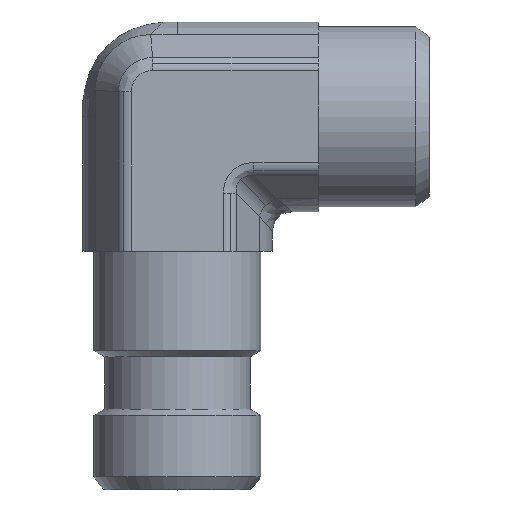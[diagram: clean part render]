
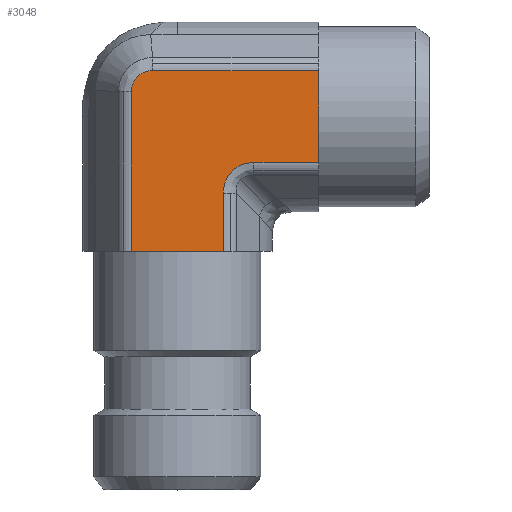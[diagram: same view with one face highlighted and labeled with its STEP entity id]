
A CAD part, top view. The second image highlights one B-rep face of the part: STEP entity #3048.
In plain terms, the highlighted planar face has unit normal (0, 0, 1) as drawn and (0, -1, 0) by its records, which use the part's own axes.
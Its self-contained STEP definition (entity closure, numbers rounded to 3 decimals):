
#319=CARTESIAN_POINT('',(3.092,-9.4,4.561));
#320=VERTEX_POINT('',#319);
#328=CARTESIAN_POINT('',(8.85,-9.4,4.561));
#329=VERTEX_POINT('',#328);
#330=CARTESIAN_POINT('',(3.092,-9.4,4.561));
#331=DIRECTION('',(1.0,0.0,0.0));
#332=VECTOR('',#331,5.758);
#333=LINE('',#330,#332);
#334=EDGE_CURVE('',#320,#329,#333,.T.);
#443=CARTESIAN_POINT('',(-9.061,-9.4,-2.461));
#444=VERTEX_POINT('',#443);
#452=CARTESIAN_POINT('',(-9.061,-9.4,14.0));
#453=VERTEX_POINT('',#452);
#454=CARTESIAN_POINT('',(-9.061,-9.4,-2.461));
#455=DIRECTION('',(0.0,0.0,1.0));
#456=VECTOR('',#455,16.461);
#457=LINE('',#454,#456);
#458=EDGE_CURVE('',#444,#453,#457,.T.);
#1963=CARTESIAN_POINT('',(8.85,-9.4,-4.561));
#1964=VERTEX_POINT('',#1963);
#1965=CARTESIAN_POINT('',(8.85,-9.4,-4.561));
#1966=DIRECTION('',(0.0,0.0,1.0));
#1967=VECTOR('',#1966,9.122);
#1968=LINE('',#1965,#1967);
#1969=EDGE_CURVE('',#1964,#329,#1968,.T.);
#2263=CARTESIAN_POINT('',(0.061,-9.4,14.0));
#2264=VERTEX_POINT('',#2263);
#2265=CARTESIAN_POINT('',(0.061,-9.4,14.0));
#2266=DIRECTION('',(-1.0,0.0,0.0));
#2267=VECTOR('',#2266,9.122);
#2268=LINE('',#2265,#2267);
#2269=EDGE_CURVE('',#2264,#453,#2268,.T.);
#2734=CARTESIAN_POINT('',(-6.961,-9.4,-4.561));
#2735=VERTEX_POINT('',#2734);
#2743=CARTESIAN_POINT('',(-9.061,-9.4,-2.461));
#2744=CARTESIAN_POINT('',(-9.061,-9.4,-2.598));
#2745=CARTESIAN_POINT('',(-9.048,-9.4,-2.736));
#2746=CARTESIAN_POINT('',(-8.977,-9.4,-3.088));
#2747=CARTESIAN_POINT('',(-8.901,-9.4,-3.296));
#2748=CARTESIAN_POINT('',(-8.62,-9.4,-3.796));
#2749=CARTESIAN_POINT('',(-8.37,-9.4,-4.058));
#2750=CARTESIAN_POINT('',(-7.737,-9.4,-4.451));
#2751=CARTESIAN_POINT('',(-7.349,-9.4,-4.561));
#2752=CARTESIAN_POINT('',(-6.961,-9.4,-4.561));
#2753=B_SPLINE_CURVE_WITH_KNOTS('',3,(#2743,#2744,#2745,#2746,#2747,#2748,#2749,#2750,#2751,#2752),.UNSPECIFIED.,.F.,.U.,(4,2,2,2,4),(-3.281,-2.871,-2.215,-1.165,0.0),.UNSPECIFIED.);
#2754=EDGE_CURVE('',#2735,#444,#2753,.F.);
#2781=CARTESIAN_POINT('',(8.85,-9.4,-4.561));
#2782=DIRECTION('',(-1.0,0.0,0.0));
#2783=VECTOR('',#2782,15.811);
#2784=LINE('',#2781,#2783);
#2785=EDGE_CURVE('',#1964,#2735,#2784,.T.);
#2917=CARTESIAN_POINT('',(0.061,-9.4,7.592));
#2918=VERTEX_POINT('',#2917);
#2919=CARTESIAN_POINT('',(0.061,-9.4,14.0));
#2920=DIRECTION('',(0.0,0.0,-1.0));
#2921=VECTOR('',#2920,6.408);
#2922=LINE('',#2919,#2921);
#2923=EDGE_CURVE('',#2264,#2918,#2922,.T.);
#3006=CARTESIAN_POINT('',(4.103,-9.4,8.603));
#3007=DIRECTION('',(0.,-1.0,0.));
#3008=DIRECTION('',(-0.707,0.,-0.707));
#3009=AXIS2_PLACEMENT_3D('',#3006,#3007,#3008);
#3010=ELLIPSE('',#3009,4.518,3.5);
#3011=EDGE_CURVE('',#2918,#320,#3010,.T.);
#3033=CARTESIAN_POINT('',(-4.5,-9.4,-3.175));
#3034=DIRECTION('',(0.0,-1.0,0.0));
#3035=DIRECTION('',(0.0,0.0,-1.0));
#3036=AXIS2_PLACEMENT_3D('',#3033,#3034,#3035);
#3037=PLANE('',#3036);
#3038=ORIENTED_EDGE('',*,*,#1969,.T.);
#3039=ORIENTED_EDGE('',*,*,#334,.F.);
#3040=ORIENTED_EDGE('',*,*,#3011,.F.);
#3041=ORIENTED_EDGE('',*,*,#2923,.F.);
#3042=ORIENTED_EDGE('',*,*,#2269,.T.);
#3043=ORIENTED_EDGE('',*,*,#458,.F.);
#3044=ORIENTED_EDGE('',*,*,#2754,.F.);
#3045=ORIENTED_EDGE('',*,*,#2785,.F.);
#3046=EDGE_LOOP('',(#3038,#3039,#3040,#3041,#3042,#3043,#3044,#3045));
#3047=FACE_OUTER_BOUND('',#3046,.T.);
#3048=ADVANCED_FACE('',(#3047),#3037,.T.);
